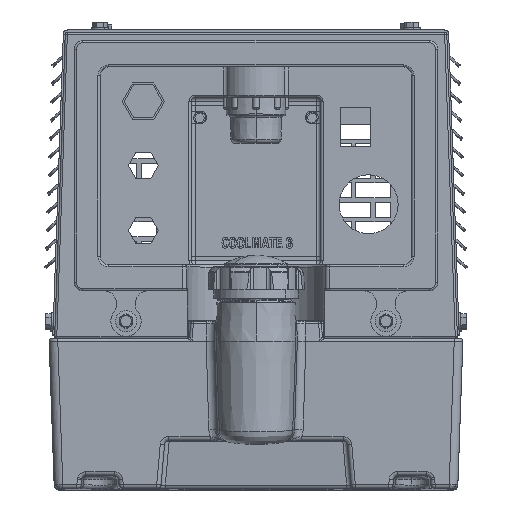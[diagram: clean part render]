
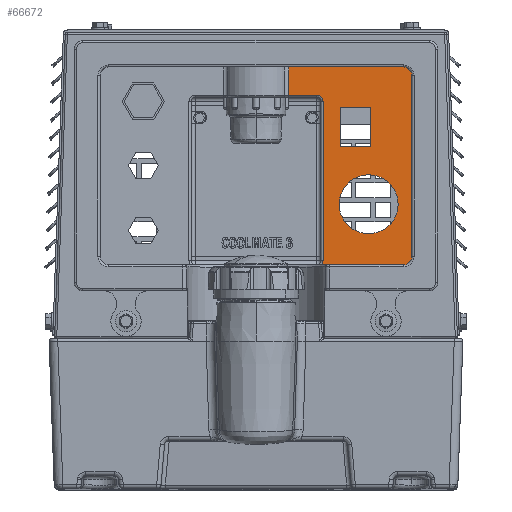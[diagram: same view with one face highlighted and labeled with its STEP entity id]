
A CAD part, top view. The second image highlights one B-rep face of the part: STEP entity #66672.
In plain terms, the highlighted planar face has unit normal (0, 0, 1).
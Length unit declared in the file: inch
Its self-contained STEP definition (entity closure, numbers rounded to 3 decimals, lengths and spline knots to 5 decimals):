
#1454 = CIRCLE ( 'NONE', #19412, 0.851 ) ;
#3029 = EDGE_CURVE ( 'NONE', #145560, #103145, #167327, .T. ) ;
#3166 = EDGE_CURVE ( 'NONE', #128610, #136791, #125184, .T. ) ;
#3744 = DIRECTION ( 'NONE',  ( 0., 0., 1. ) ) ;
#6434 = VECTOR ( 'NONE', #161242, 39.37008 ) ;
#8214 = EDGE_CURVE ( 'NONE', #101093, #90201, #25157, .T. ) ;
#8549 = ORIENTED_EDGE ( 'NONE', *, *, #37207, .T. ) ;
#15206 = LINE ( 'NONE', #76404, #6434 ) ;
#15578 = CARTESIAN_POINT ( 'NONE',  ( 1.75, 6.84, 0.678 ) ) ;
#19326 = CARTESIAN_POINT ( 'NONE',  ( 1.935, 6.84, 0.678 ) ) ;
#19412 = AXIS2_PLACEMENT_3D ( 'NONE', #32695, #131710, #46946 ) ;
#20169 = AXIS2_PLACEMENT_3D ( 'NONE', #49326, #148407, #63520 ) ;
#21452 = ORIENTED_EDGE ( 'NONE', *, *, #133430, .T. ) ;
#21871 = LINE ( 'NONE', #95420, #92738 ) ;
#21921 = EDGE_LOOP ( 'NONE', ( #126573, #103986 ) ) ;
#22131 = VERTEX_POINT ( 'NONE', #84869 ) ;
#22190 = ORIENTED_EDGE ( 'NONE', *, *, #105986, .T. ) ;
#23004 = VERTEX_POINT ( 'NONE', #129771 ) ;
#23094 = AXIS2_PLACEMENT_3D ( 'NONE', #94508, #80937, #179986 ) ;
#23217 = ORIENTED_EDGE ( 'NONE', *, *, #152984, .T. ) ;
#25157 = CIRCLE ( 'NONE', #110079, 0.851 ) ;
#27000 = DIRECTION ( 'NONE',  ( 0., -1., 0. ) ) ;
#27520 = DIRECTION ( 'NONE',  ( 0., 0., 1. ) ) ;
#28706 = CARTESIAN_POINT ( 'NONE',  ( 2.399, 3.875, 0.678 ) ) ;
#29809 = DIRECTION ( 'NONE',  ( 1., 0., 0. ) ) ;
#30173 = ORIENTED_EDGE ( 'NONE', *, *, #126463, .F. ) ;
#32695 = CARTESIAN_POINT ( 'NONE',  ( 3.25, 3.875, 0.678 ) ) ;
#33321 = EDGE_CURVE ( 'NONE', #90201, #101093, #1454, .T. ) ;
#33543 = ORIENTED_EDGE ( 'NONE', *, *, #113761, .T. ) ;
#36670 = ORIENTED_EDGE ( 'NONE', *, *, #90328, .F. ) ;
#37207 = EDGE_CURVE ( 'NONE', #22131, #128610, #176292, .T. ) ;
#37311 = VECTOR ( 'NONE', #96468, 39.37008 ) ;
#44889 = VERTEX_POINT ( 'NONE', #104058 ) ;
#46946 = DIRECTION ( 'NONE',  ( 1., 0., 0. ) ) ;
#49326 = CARTESIAN_POINT ( 'NONE',  ( 1.75, 2.25, 0.678 ) ) ;
#50864 = VECTOR ( 'NONE', #106462, 39.37008 ) ;
#51304 = EDGE_CURVE ( 'NONE', #95265, #106134, #15206, .T. ) ;
#51417 = VERTEX_POINT ( 'NONE', #176675 ) ;
#52494 = PLANE ( 'NONE',  #23094 ) ;
#53047 = CARTESIAN_POINT ( 'NONE',  ( -4.5, 2.125, 0.678 ) ) ;
#55014 = VECTOR ( 'NONE', #27000, 39.37008 ) ;
#55118 = CIRCLE ( 'NONE', #20169, 0.185 ) ;
#56072 = CARTESIAN_POINT ( 'NONE',  ( 1.75, 7.025, 0.678 ) ) ;
#59460 = EDGE_LOOP ( 'NONE', ( #22190, #33543, #8549, #165689, #23217, #21452, #108648, #60239, #100017, #65310 ) ) ;
#60239 = ORIENTED_EDGE ( 'NONE', *, *, #92129, .T. ) ;
#61118 = EDGE_CURVE ( 'NONE', #23004, #68373, #145230, .T. ) ;
#63433 = LINE ( 'NONE', #53047, #138796 ) ;
#63520 = DIRECTION ( 'NONE',  ( 1., 0., 0. ) ) ;
#65310 = ORIENTED_EDGE ( 'NONE', *, *, #127187, .T. ) ;
#66672 = ADVANCED_FACE ( 'NONE', ( #144568, #177765, #73634 ), #52494, .T. ) ;
#68373 = VERTEX_POINT ( 'NONE', #142737 ) ;
#68537 = DIRECTION ( 'NONE',  ( 0., -1., 0. ) ) ;
#69827 = ORIENTED_EDGE ( 'NONE', *, *, #61118, .F. ) ;
#71765 = VERTEX_POINT ( 'NONE', #145535 ) ;
#72723 = VERTEX_POINT ( 'NONE', #77539 ) ;
#73634 = FACE_BOUND ( 'NONE', #21921, .T. ) ;
#74978 = LINE ( 'NONE', #167095, #37311 ) ;
#76404 = CARTESIAN_POINT ( 'NONE',  ( 1.75, 7.025, 0.678 ) ) ;
#77539 = CARTESIAN_POINT ( 'NONE',  ( 4.25, 2.125, 0.678 ) ) ;
#80937 = DIRECTION ( 'NONE',  ( 0., 0., 1. ) ) ;
#81687 = CARTESIAN_POINT ( 'NONE',  ( 1.935, 2.25, 0.678 ) ) ;
#82148 = CARTESIAN_POINT ( 'NONE',  ( 2.4375, 5.534, 0.678 ) ) ;
#83635 = DIRECTION ( 'NONE',  ( 1., 0., 0. ) ) ;
#84869 = CARTESIAN_POINT ( 'NONE',  ( 4.5, 2.375, 0.678 ) ) ;
#88490 = DIRECTION ( 'NONE',  ( 1., 0., 0. ) ) ;
#89712 = EDGE_LOOP ( 'NONE', ( #106578, #69827, #30173, #36670 ) ) ;
#90201 = VERTEX_POINT ( 'NONE', #135718 ) ;
#90328 = EDGE_CURVE ( 'NONE', #71765, #51417, #21871, .T. ) ;
#92129 = EDGE_CURVE ( 'NONE', #106134, #145560, #158879, .T. ) ;
#92738 = VECTOR ( 'NONE', #151872, 39.37008 ) ;
#94508 = CARTESIAN_POINT ( 'NONE',  ( 0., 0., 0.678 ) ) ;
#95265 = VERTEX_POINT ( 'NONE', #151789 ) ;
#95420 = CARTESIAN_POINT ( 'NONE',  ( 3.3125, 5.534, 0.678 ) ) ;
#96468 = DIRECTION ( 'NONE',  ( -1., 0., 0. ) ) ;
#100017 = ORIENTED_EDGE ( 'NONE', *, *, #3029, .T. ) ;
#100739 = CARTESIAN_POINT ( 'NONE',  ( 4.5, 7.586, 0.678 ) ) ;
#100910 = VECTOR ( 'NONE', #152350, 39.37008 ) ;
#101093 = VERTEX_POINT ( 'NONE', #28706 ) ;
#102641 = CARTESIAN_POINT ( 'NONE',  ( 3.25, 3.875, 0.678 ) ) ;
#103145 = VERTEX_POINT ( 'NONE', #81687 ) ;
#103986 = ORIENTED_EDGE ( 'NONE', *, *, #8214, .F. ) ;
#104058 = CARTESIAN_POINT ( 'NONE',  ( 0.94162, 7.836, 0.678 ) ) ;
#105986 = EDGE_CURVE ( 'NONE', #154051, #72723, #63433, .T. ) ;
#106134 = VERTEX_POINT ( 'NONE', #56072 ) ;
#106462 = DIRECTION ( 'NONE',  ( 0., 1., 0. ) ) ;
#106578 = ORIENTED_EDGE ( 'NONE', *, *, #106895, .F. ) ;
#106895 = EDGE_CURVE ( 'NONE', #68373, #71765, #158525, .T. ) ;
#108648 = ORIENTED_EDGE ( 'NONE', *, *, #51304, .T. ) ;
#110079 = AXIS2_PLACEMENT_3D ( 'NONE', #102641, #3744, #88490 ) ;
#112343 = CARTESIAN_POINT ( 'NONE',  ( 4.25, 2.375, 0.678 ) ) ;
#113761 = EDGE_CURVE ( 'NONE', #72723, #22131, #132234, .T. ) ;
#114615 = DIRECTION ( 'NONE',  ( 0., 0., -1. ) ) ;
#120417 = CARTESIAN_POINT ( 'NONE',  ( 4.25, 7.586, 0.678 ) ) ;
#121107 = CARTESIAN_POINT ( 'NONE',  ( 3.3125, 6.654, 0.678 ) ) ;
#125184 = CIRCLE ( 'NONE', #145037, 0.25 ) ;
#126033 = CARTESIAN_POINT ( 'NONE',  ( 0.94162, 6.965, 0.678 ) ) ;
#126116 = LINE ( 'NONE', #177062, #50864 ) ;
#126463 = EDGE_CURVE ( 'NONE', #51417, #23004, #126116, .T. ) ;
#126542 = DIRECTION ( 'NONE',  ( 1., 0., 0. ) ) ;
#126573 = ORIENTED_EDGE ( 'NONE', *, *, #33321, .F. ) ;
#127187 = EDGE_CURVE ( 'NONE', #103145, #154051, #55118, .T. ) ;
#128610 = VERTEX_POINT ( 'NONE', #100739 ) ;
#129617 = VECTOR ( 'NONE', #148617, 39.37008 ) ;
#129771 = CARTESIAN_POINT ( 'NONE',  ( 3.3125, 6.654, 0.678 ) ) ;
#129958 = CARTESIAN_POINT ( 'NONE',  ( 1.935, 2.25, 0.678 ) ) ;
#131710 = DIRECTION ( 'NONE',  ( 0., 0., 1. ) ) ;
#132234 = CIRCLE ( 'NONE', #160518, 0.25 ) ;
#132594 = CARTESIAN_POINT ( 'NONE',  ( 4.25, 7.836, 0.678 ) ) ;
#133430 = EDGE_CURVE ( 'NONE', #44889, #95265, #176855, .T. ) ;
#135718 = CARTESIAN_POINT ( 'NONE',  ( 4.101, 3.875, 0.678 ) ) ;
#136791 = VERTEX_POINT ( 'NONE', #132594 ) ;
#138051 = CARTESIAN_POINT ( 'NONE',  ( 4.5, 7.836, 0.678 ) ) ;
#138796 = VECTOR ( 'NONE', #152136, 39.37008 ) ;
#142737 = CARTESIAN_POINT ( 'NONE',  ( 2.4375, 6.654, 0.678 ) ) ;
#144568 = FACE_OUTER_BOUND ( 'NONE', #59460, .T. ) ;
#145037 = AXIS2_PLACEMENT_3D ( 'NONE', #120417, #149627, #83635 ) ;
#145230 = LINE ( 'NONE', #121107, #154128 ) ;
#145535 = CARTESIAN_POINT ( 'NONE',  ( 2.4375, 5.534, 0.678 ) ) ;
#145560 = VERTEX_POINT ( 'NONE', #19326 ) ;
#145781 = AXIS2_PLACEMENT_3D ( 'NONE', #15578, #114615, #29809 ) ;
#147601 = CARTESIAN_POINT ( 'NONE',  ( 1.88638, 2.125, 0.678 ) ) ;
#148407 = DIRECTION ( 'NONE',  ( 0., 0., -1. ) ) ;
#148617 = DIRECTION ( 'NONE',  ( 0., -1., 0. ) ) ;
#149627 = DIRECTION ( 'NONE',  ( 0., 0., 1. ) ) ;
#151789 = CARTESIAN_POINT ( 'NONE',  ( 0.94162, 7.025, 0.678 ) ) ;
#151872 = DIRECTION ( 'NONE',  ( 1., 0., 0. ) ) ;
#152136 = DIRECTION ( 'NONE',  ( 1., 0., 0. ) ) ;
#152350 = DIRECTION ( 'NONE',  ( 0., 1., 0. ) ) ;
#152984 = EDGE_CURVE ( 'NONE', #136791, #44889, #74978, .T. ) ;
#154051 = VERTEX_POINT ( 'NONE', #147601 ) ;
#154128 = VECTOR ( 'NONE', #177489, 39.37008 ) ;
#154127 = VECTOR ( 'NONE', #68537, 39.37008 ) ;
#158525 = LINE ( 'NONE', #82148, #154127 ) ;
#158879 = CIRCLE ( 'NONE', #145781, 0.185 ) ;
#160518 = AXIS2_PLACEMENT_3D ( 'NONE', #112343, #27520, #126542 ) ;
#161242 = DIRECTION ( 'NONE',  ( 1., 0., 0. ) ) ;
#165689 = ORIENTED_EDGE ( 'NONE', *, *, #3166, .T. ) ;
#167095 = CARTESIAN_POINT ( 'NONE',  ( -4.5, 7.836, 0.678 ) ) ;
#167327 = LINE ( 'NONE', #129958, #129617 ) ;
#176292 = LINE ( 'NONE', #138051, #100910 ) ;
#176675 = CARTESIAN_POINT ( 'NONE',  ( 3.3125, 5.534, 0.678 ) ) ;
#176855 = LINE ( 'NONE', #126033, #55014 ) ;
#177062 = CARTESIAN_POINT ( 'NONE',  ( 3.3125, 5.534, 0.678 ) ) ;
#177489 = DIRECTION ( 'NONE',  ( -1., 0., 0. ) ) ;
#177765 = FACE_BOUND ( 'NONE', #89712, .T. ) ;
#179986 = DIRECTION ( 'NONE',  ( 1., 0., 0. ) ) ;
